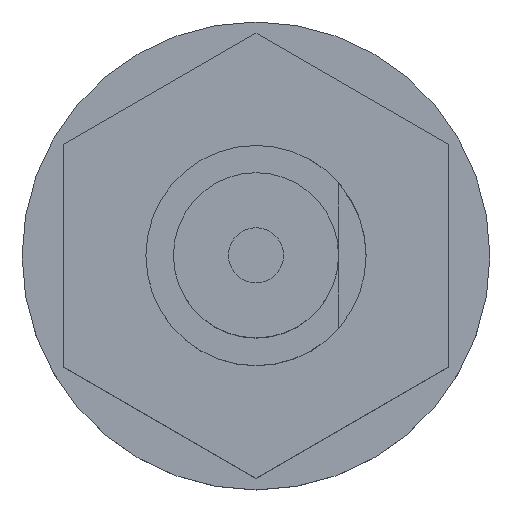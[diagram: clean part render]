
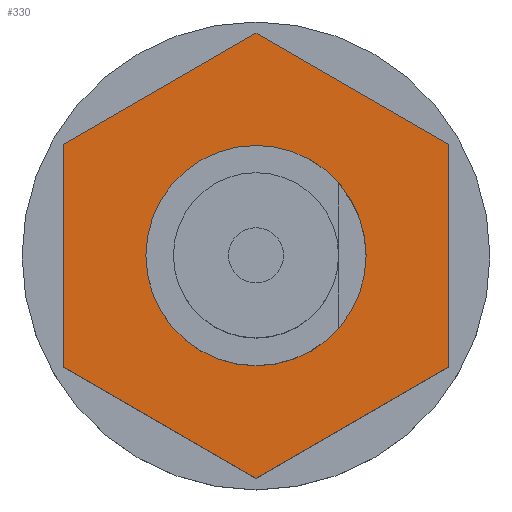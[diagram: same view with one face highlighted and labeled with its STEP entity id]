
A CAD part, top view. The second image highlights one B-rep face of the part: STEP entity #330.
In plain terms, the highlighted planar face has unit normal (0, 0, 1) as drawn and (-1, 0, 0) by its records, which use the part's own axes.
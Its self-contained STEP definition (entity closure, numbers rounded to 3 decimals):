
#38 = VERTEX_POINT ( 'NONE', #546 ) ;
#39 = VERTEX_POINT ( 'NONE', #545 ) ;
#40 = EDGE_CURVE ( 'NONE', #39, #38, #544, .T. ) ;
#312 = EDGE_CURVE ( 'NONE', #341, #313, #997, .T. ) ;
#313 = VERTEX_POINT ( 'NONE', #993 ) ;
#314 = ORIENTED_EDGE ( 'NONE', *, *, #315, .T. ) ;
#315 = EDGE_CURVE ( 'NONE', #313, #316, #1054, .T. ) ;
#316 = VERTEX_POINT ( 'NONE', #1050 ) ;
#317 = ORIENTED_EDGE ( 'NONE', *, *, #318, .T. ) ;
#318 = EDGE_CURVE ( 'NONE', #316, #334, #1049, .T. ) ;
#319 = EDGE_LOOP ( 'NONE', ( #320, #321 ) ) ;
#320 = ORIENTED_EDGE ( 'NONE', *, *, #40, .F. ) ;
#321 = ORIENTED_EDGE ( 'NONE', *, *, #322, .F. ) ;
#322 = EDGE_CURVE ( 'NONE', #38, #39, #1045, .T. ) ;
#330 = ADVANCED_FACE ( 'NONE', ( #1027, #1026 ), #1025, .T. ) ;
#331 = EDGE_LOOP ( 'NONE', ( #332, #336, #339, #342, #314, #317 ) ) ;
#332 = ORIENTED_EDGE ( 'NONE', *, *, #333, .T. ) ;
#333 = EDGE_CURVE ( 'NONE', #334, #335, #1019, .T. ) ;
#334 = VERTEX_POINT ( 'NONE', #1085 ) ;
#335 = VERTEX_POINT ( 'NONE', #1084 ) ;
#336 = ORIENTED_EDGE ( 'NONE', *, *, #337, .T. ) ;
#337 = EDGE_CURVE ( 'NONE', #335, #338, #1083, .T. ) ;
#338 = VERTEX_POINT ( 'NONE', #1079 ) ;
#339 = ORIENTED_EDGE ( 'NONE', *, *, #340, .T. ) ;
#340 = EDGE_CURVE ( 'NONE', #338, #341, #1078, .T. ) ;
#341 = VERTEX_POINT ( 'NONE', #1074 ) ;
#342 = ORIENTED_EDGE ( 'NONE', *, *, #312, .T. ) ;
#540 = DIRECTION ( 'NONE',  ( 0., 0., 1. ) ) ;
#541 = DIRECTION ( 'NONE',  ( -1., 0., 0. ) ) ;
#542 = CARTESIAN_POINT ( 'NONE',  ( 4., 0., 0. ) ) ;
#543 = AXIS2_PLACEMENT_3D ( 'NONE', #542, #541, #540 ) ;
#544 = CIRCLE ( 'NONE', #543, 2. ) ;
#545 = CARTESIAN_POINT ( 'NONE',  ( 4., 0., -2. ) ) ;
#546 = CARTESIAN_POINT ( 'NONE',  ( 4., 0., 2. ) ) ;
#993 = CARTESIAN_POINT ( 'NONE',  ( 4., 0., 4.041 ) ) ;
#994 = DIRECTION ( 'NONE',  ( 0., 0.866, 0.5 ) ) ;
#995 = VECTOR ( 'NONE', #994, 1000. ) ;
#996 = CARTESIAN_POINT ( 'NONE',  ( 4., -3.5, 2.021 ) ) ;
#997 = LINE ( 'NONE', #996, #995 ) ;
#1018 = CARTESIAN_POINT ( 'NONE',  ( 4., 3.5, -2.021 ) ) ;
#1019 = LINE ( 'NONE', #1018, #1087 ) ;
#1021 = DIRECTION ( 'NONE',  ( 0., 0., 1. ) ) ;
#1022 = DIRECTION ( 'NONE',  ( -1., 0., 0. ) ) ;
#1023 = CARTESIAN_POINT ( 'NONE',  ( 4., 0., -4.041 ) ) ;
#1024 = AXIS2_PLACEMENT_3D ( 'NONE', #1023, #1022, #1021 ) ;
#1025 = PLANE ( 'NONE',  #1024 ) ;
#1026 = FACE_BOUND ( 'NONE', #319, .T. ) ;
#1027 = FACE_OUTER_BOUND ( 'NONE', #331, .T. ) ;
#1041 = DIRECTION ( 'NONE',  ( 0., 0., 1. ) ) ;
#1042 = DIRECTION ( 'NONE',  ( -1., 0., 0. ) ) ;
#1043 = CARTESIAN_POINT ( 'NONE',  ( 4., 0., 0. ) ) ;
#1044 = AXIS2_PLACEMENT_3D ( 'NONE', #1043, #1042, #1041 ) ;
#1045 = CIRCLE ( 'NONE', #1044, 2. ) ;
#1046 = DIRECTION ( 'NONE',  ( 0., 0., -1. ) ) ;
#1047 = VECTOR ( 'NONE', #1046, 1000. ) ;
#1048 = CARTESIAN_POINT ( 'NONE',  ( 4., 3.5, 2.021 ) ) ;
#1049 = LINE ( 'NONE', #1048, #1047 ) ;
#1050 = CARTESIAN_POINT ( 'NONE',  ( 4., 3.5, 2.021 ) ) ;
#1051 = DIRECTION ( 'NONE',  ( 0., 0.866, -0.5 ) ) ;
#1052 = VECTOR ( 'NONE', #1051, 1000. ) ;
#1053 = CARTESIAN_POINT ( 'NONE',  ( 4., 0., 4.041 ) ) ;
#1054 = LINE ( 'NONE', #1053, #1052 ) ;
#1074 = CARTESIAN_POINT ( 'NONE',  ( 4., -3.5, 2.021 ) ) ;
#1075 = DIRECTION ( 'NONE',  ( 0., 0., 1. ) ) ;
#1076 = VECTOR ( 'NONE', #1075, 1000. ) ;
#1077 = CARTESIAN_POINT ( 'NONE',  ( 4., -3.5, -2.021 ) ) ;
#1078 = LINE ( 'NONE', #1077, #1076 ) ;
#1079 = CARTESIAN_POINT ( 'NONE',  ( 4., -3.5, -2.021 ) ) ;
#1080 = DIRECTION ( 'NONE',  ( 0., -0.866, 0.5 ) ) ;
#1081 = VECTOR ( 'NONE', #1080, 1000. ) ;
#1082 = CARTESIAN_POINT ( 'NONE',  ( 4., 0., -4.041 ) ) ;
#1083 = LINE ( 'NONE', #1082, #1081 ) ;
#1084 = CARTESIAN_POINT ( 'NONE',  ( 4., 0., -4.041 ) ) ;
#1085 = CARTESIAN_POINT ( 'NONE',  ( 4., 3.5, -2.021 ) ) ;
#1086 = DIRECTION ( 'NONE',  ( 0., -0.866, -0.5 ) ) ;
#1087 = VECTOR ( 'NONE', #1086, 1000. ) ;
